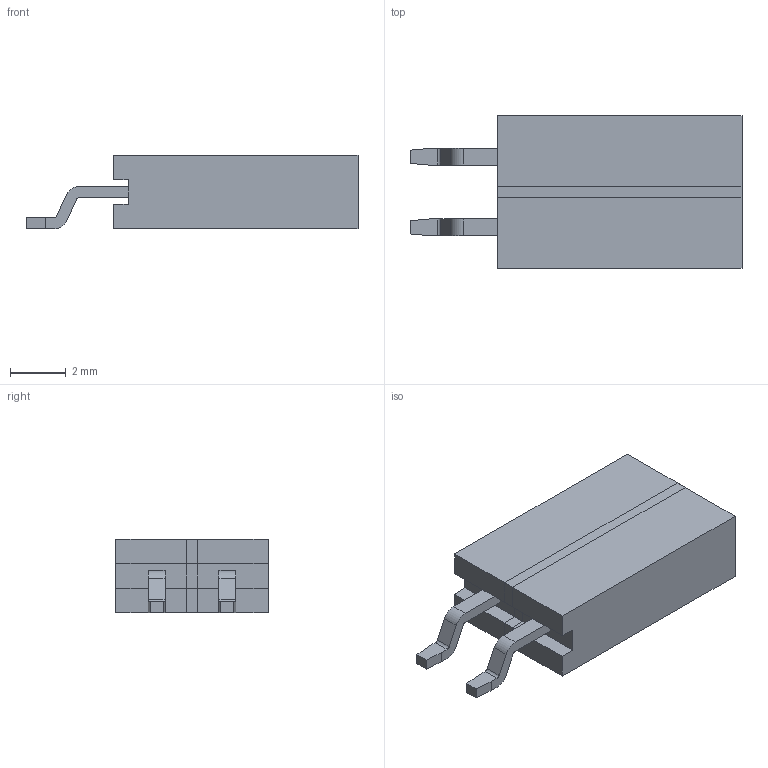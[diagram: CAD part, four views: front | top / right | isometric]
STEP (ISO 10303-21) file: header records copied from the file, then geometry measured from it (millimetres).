
FILE_DESCRIPTION(('FreeCAD Model'),'2;1');
FILE_NAME('Open CASCADE Shape Model','2025-02-26T21:54:41',( 'Krisjanis Rijnieks'),(''),'Open CASCADE STEP processor 7.7', 'FreeCAD','Unknown');
FILE_SCHEMA(('AUTOMOTIVE_DESIGN { 1 0 10303 214 1 1 1 1 }'));
Length unit declared in the file: millimetre
Products named in the file (7): 01x02_P2.54mm_Horizontal_SMD; 01x01_P2.54mm_Horizontal_SMD001; HorizontalLead001; HorizontalSocket001; 01x01_P2.54mm_Horizontal_SMD002; HorizontalLead002; HorizontalSocket002
Assembly tree (6 placements, depth 3):
  01x02_P2.54mm_Horizontal_SMD
    01x01_P2.54mm_Horizontal_SMD001
      HorizontalLead001
      HorizontalSocket001
    01x01_P2.54mm_Horizontal_SMD002
      HorizontalLead002
      HorizontalSocket002
Bounding box: 11.95 x 5.48 x 2.65 mm (x, y, z)
Volume: 128.6 mm3; surface area: 297 mm2
Topology: 4 solids, 4 shells, 70 faces, 172 edges, 112 vertices
Faces by surface type: plane 62, cylinder 8
Entity records: 2183 total; most frequent: CARTESIAN_POINT 361, ORIENTED_EDGE 344, DIRECTION 342, EDGE_CURVE 172, LINE 156, VECTOR 156, VERTEX_POINT 112, AXIS2_PLACEMENT_3D 93
